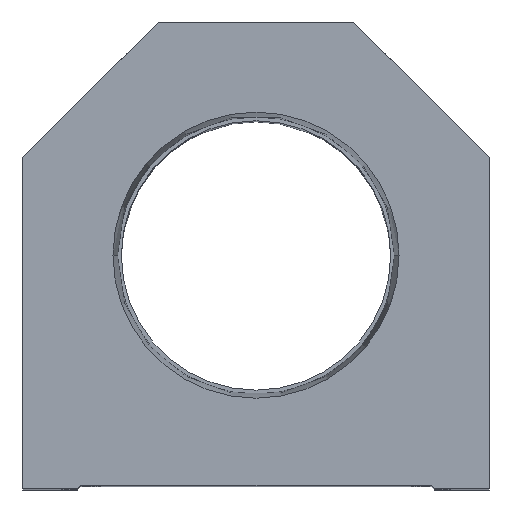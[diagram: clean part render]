
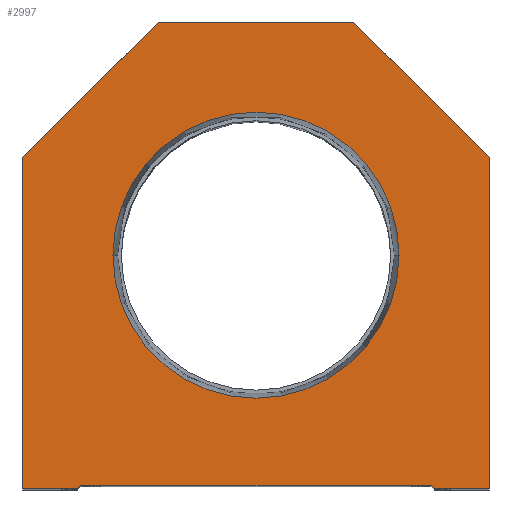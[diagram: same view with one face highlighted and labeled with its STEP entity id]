
A CAD part, top view. The second image highlights one B-rep face of the part: STEP entity #2997.
In plain terms, the highlighted planar face has unit normal (0, 0, 1).
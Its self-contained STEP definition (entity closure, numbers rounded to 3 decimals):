
#219 = EDGE_LOOP ( 'NONE', ( #5447, #3811, #12009, #8990, #4996, #11190, #7690, #9794, #16302, #537 ) ) ;
#380 = VERTEX_POINT ( 'NONE', #10423 ) ;
#390 = EDGE_CURVE ( 'NONE', #7491, #1302, #13141, .T. ) ;
#537 = ORIENTED_EDGE ( 'NONE', *, *, #12607, .T. ) ;
#546 = EDGE_CURVE ( 'NONE', #10905, #6849, #8172, .T. ) ;
#774 = DIRECTION ( 'NONE',  ( 1., 0., 0. ) ) ;
#896 = CARTESIAN_POINT ( 'NONE',  ( 38.1, 0., 0. ) ) ;
#1302 = VERTEX_POINT ( 'NONE', #15703 ) ;
#1501 = VERTEX_POINT ( 'NONE', #4507 ) ;
#2162 = VECTOR ( 'NONE', #12978, 1000. ) ;
#2430 = EDGE_CURVE ( 'NONE', #4728, #10905, #13943, .T. ) ;
#2489 = VECTOR ( 'NONE', #12510, 1000. ) ;
#2557 = AXIS2_PLACEMENT_3D ( 'NONE', #3121, #13360, #8309 ) ;
#2919 = VECTOR ( 'NONE', #5736, 1000. ) ;
#2997 = ADVANCED_FACE ( 'NONE', ( #8529, #11024 ), #16239, .T. ) ;
#3121 = CARTESIAN_POINT ( 'NONE',  ( 0., 38.1, 0. ) ) ;
#3628 = CARTESIAN_POINT ( 'NONE',  ( -28.6, 0.5, 0. ) ) ;
#3811 = ORIENTED_EDGE ( 'NONE', *, *, #10584, .T. ) ;
#3958 = EDGE_CURVE ( 'NONE', #4309, #4728, #13201, .T. ) ;
#4251 = LINE ( 'NONE', #9274, #11382 ) ;
#4309 = VERTEX_POINT ( 'NONE', #9370 ) ;
#4481 = CARTESIAN_POINT ( 'NONE',  ( -28.6, 0.5, 0. ) ) ;
#4507 = CARTESIAN_POINT ( 'NONE',  ( -38.1, 0., 0. ) ) ;
#4548 = CARTESIAN_POINT ( 'NONE',  ( 0., 0., 0. ) ) ;
#4728 = VERTEX_POINT ( 'NONE', #13374 ) ;
#4842 = VECTOR ( 'NONE', #8902, 1000. ) ;
#4912 = LINE ( 'NONE', #7618, #4842 ) ;
#4996 = ORIENTED_EDGE ( 'NONE', *, *, #2430, .T. ) ;
#5013 = CARTESIAN_POINT ( 'NONE',  ( 28.6, 0., 0. ) ) ;
#5045 = CIRCLE ( 'NONE', #14565, 23.374 ) ;
#5170 = CARTESIAN_POINT ( 'NONE',  ( 16., 76.2, 0. ) ) ;
#5396 = VECTOR ( 'NONE', #13040, 1000. ) ;
#5447 = ORIENTED_EDGE ( 'NONE', *, *, #6051, .T. ) ;
#5672 = CARTESIAN_POINT ( 'NONE',  ( 23.374, 38.1, 0. ) ) ;
#5736 = DIRECTION ( 'NONE',  ( 0., -1., 0. ) ) ;
#6051 = EDGE_CURVE ( 'NONE', #1501, #16043, #4251, .T. ) ;
#6262 = ORIENTED_EDGE ( 'NONE', *, *, #10124, .F. ) ;
#6343 = ORIENTED_EDGE ( 'NONE', *, *, #10659, .F. ) ;
#6817 = CARTESIAN_POINT ( 'NONE',  ( -38.1, 54.1, 0. ) ) ;
#6849 = VERTEX_POINT ( 'NONE', #14742 ) ;
#6987 = CARTESIAN_POINT ( 'NONE',  ( -38.1, 0., 0. ) ) ;
#7040 = VERTEX_POINT ( 'NONE', #11820 ) ;
#7060 = CARTESIAN_POINT ( 'NONE',  ( -14.55, 14.55, 0. ) ) ;
#7136 = DIRECTION ( 'NONE',  ( 0., 0., 1. ) ) ;
#7245 = DIRECTION ( 'NONE',  ( 0., 0., 1. ) ) ;
#7362 = CARTESIAN_POINT ( 'NONE',  ( 38.1, 0., 0. ) ) ;
#7491 = VERTEX_POINT ( 'NONE', #10172 ) ;
#7618 = CARTESIAN_POINT ( 'NONE',  ( 38.1, 54.1, 0. ) ) ;
#7690 = ORIENTED_EDGE ( 'NONE', *, *, #12924, .T. ) ;
#7994 = CIRCLE ( 'NONE', #2557, 23.374 ) ;
#8172 = LINE ( 'NONE', #896, #9505 ) ;
#8309 = DIRECTION ( 'NONE',  ( 1., 0., 0. ) ) ;
#8334 = LINE ( 'NONE', #7060, #11033 ) ;
#8529 = FACE_BOUND ( 'NONE', #15353, .T. ) ;
#8902 = DIRECTION ( 'NONE',  ( -0.707, 0.707, 0. ) ) ;
#8990 = ORIENTED_EDGE ( 'NONE', *, *, #3958, .T. ) ;
#9274 = CARTESIAN_POINT ( 'NONE',  ( -28.6, 0., 0. ) ) ;
#9370 = CARTESIAN_POINT ( 'NONE',  ( 28.6, 0.5, 0. ) ) ;
#9505 = VECTOR ( 'NONE', #13391, 1000. ) ;
#9794 = ORIENTED_EDGE ( 'NONE', *, *, #10354, .T. ) ;
#9869 = LINE ( 'NONE', #6987, #2919 ) ;
#10124 = EDGE_CURVE ( 'NONE', #16551, #7040, #7994, .T. ) ;
#10172 = CARTESIAN_POINT ( 'NONE',  ( -16., 76.2, 0. ) ) ;
#10354 = EDGE_CURVE ( 'NONE', #380, #7491, #10625, .T. ) ;
#10423 = CARTESIAN_POINT ( 'NONE',  ( 16., 76.2, 0. ) ) ;
#10568 = CARTESIAN_POINT ( 'NONE',  ( 14.55, 14.55, 0. ) ) ;
#10584 = EDGE_CURVE ( 'NONE', #16043, #11416, #8334, .T. ) ;
#10625 = LINE ( 'NONE', #5170, #11274 ) ;
#10659 = EDGE_CURVE ( 'NONE', #7040, #16551, #5045, .T. ) ;
#10905 = VERTEX_POINT ( 'NONE', #7362 ) ;
#11024 = FACE_OUTER_BOUND ( 'NONE', #219, .T. ) ;
#11033 = VECTOR ( 'NONE', #12340, 1000. ) ;
#11170 = CARTESIAN_POINT ( 'NONE',  ( 0., 38.1, 0. ) ) ;
#11190 = ORIENTED_EDGE ( 'NONE', *, *, #546, .T. ) ;
#11274 = VECTOR ( 'NONE', #15648, 1000. ) ;
#11382 = VECTOR ( 'NONE', #14656, 1000. ) ;
#11416 = VERTEX_POINT ( 'NONE', #4481 ) ;
#11820 = CARTESIAN_POINT ( 'NONE',  ( -23.374, 38.1, 0. ) ) ;
#12002 = EDGE_CURVE ( 'NONE', #11416, #4309, #16602, .T. ) ;
#12009 = ORIENTED_EDGE ( 'NONE', *, *, #12002, .T. ) ;
#12257 = CARTESIAN_POINT ( 'NONE',  ( -29.1, 0., 0. ) ) ;
#12340 = DIRECTION ( 'NONE',  ( 0.707, 0.707, 0. ) ) ;
#12510 = DIRECTION ( 'NONE',  ( 1., 0., 0. ) ) ;
#12607 = EDGE_CURVE ( 'NONE', #1302, #1501, #9869, .T. ) ;
#12924 = EDGE_CURVE ( 'NONE', #6849, #380, #4912, .T. ) ;
#12978 = DIRECTION ( 'NONE',  ( -0.707, -0.707, 0. ) ) ;
#13040 = DIRECTION ( 'NONE',  ( 0.707, -0.707, 0. ) ) ;
#13141 = LINE ( 'NONE', #6817, #2162 ) ;
#13201 = LINE ( 'NONE', #10568, #5396 ) ;
#13360 = DIRECTION ( 'NONE',  ( 0., 0., 1. ) ) ;
#13374 = CARTESIAN_POINT ( 'NONE',  ( 29.1, 0., 0. ) ) ;
#13391 = DIRECTION ( 'NONE',  ( 0., 1., 0. ) ) ;
#13943 = LINE ( 'NONE', #5013, #2489 ) ;
#14348 = DIRECTION ( 'NONE',  ( 1., 0., 0. ) ) ;
#14565 = AXIS2_PLACEMENT_3D ( 'NONE', #11170, #7136, #16377 ) ;
#14656 = DIRECTION ( 'NONE',  ( 1., 0., 0. ) ) ;
#14742 = CARTESIAN_POINT ( 'NONE',  ( 38.1, 54.1, 0. ) ) ;
#15353 = EDGE_LOOP ( 'NONE', ( #6262, #6343 ) ) ;
#15648 = DIRECTION ( 'NONE',  ( -1., 0., 0. ) ) ;
#15703 = CARTESIAN_POINT ( 'NONE',  ( -38.1, 54.1, 0. ) ) ;
#16043 = VERTEX_POINT ( 'NONE', #12257 ) ;
#16239 = PLANE ( 'NONE',  #16422 ) ;
#16302 = ORIENTED_EDGE ( 'NONE', *, *, #390, .T. ) ;
#16377 = DIRECTION ( 'NONE',  ( 1., 0., 0. ) ) ;
#16422 = AXIS2_PLACEMENT_3D ( 'NONE', #4548, #7245, #774 ) ;
#16542 = VECTOR ( 'NONE', #14348, 1000. ) ;
#16551 = VERTEX_POINT ( 'NONE', #5672 ) ;
#16602 = LINE ( 'NONE', #3628, #16542 ) ;
